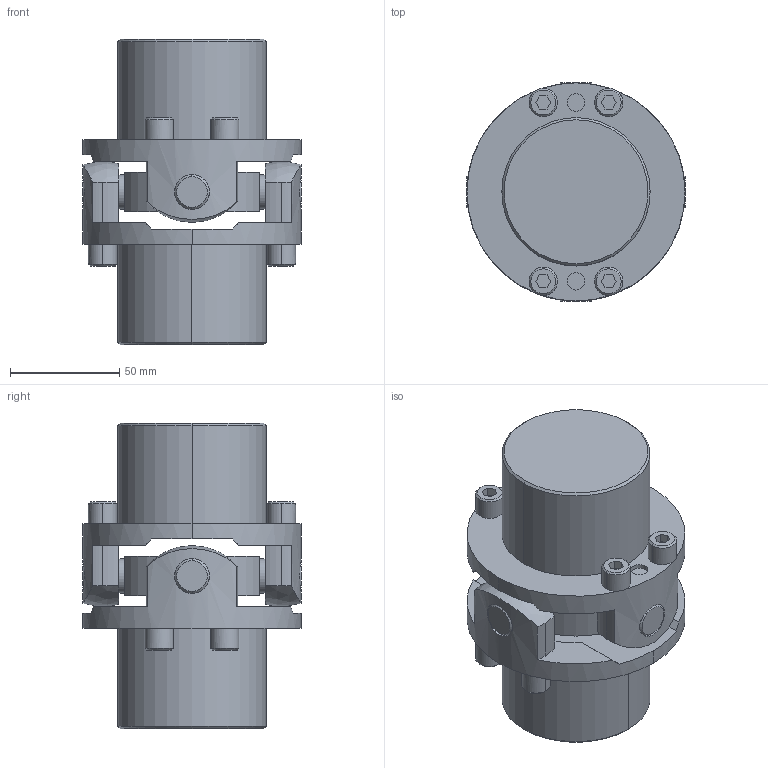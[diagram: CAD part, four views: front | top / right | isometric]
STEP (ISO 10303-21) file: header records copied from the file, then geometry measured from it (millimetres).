
FILE_DESCRIPTION((''),'2;1');
FILE_NAME('UCR-100.stp','2013-05-13T09:59:52',(''),(''),'AutoCAD STEP 2000i','AutoCAD 2000i',', , ');
FILE_SCHEMA(('CONFIG_CONTROL_DESIGN'));
Length unit declared in the file: millimetre
Products named in the file (7): UCR-100; 忣兜1; UCR-10002; UCNF-10002; UCN100-B020-1; UCN100-B020; UCN100-SEN
Assembly tree (6 placements, depth 2):
  UCR-100
    忣兜1
    UCR-10002
    UCNF-10002
    UCN100-B020-1
    UCN100-B020
    UCN100-SEN
Bounding box: 100 x 100 x 140 mm (x, y, z)
Volume: 569263.5 mm3; surface area: 80881.4 mm2
Topology: 1 solids, 1 shells, 218 faces, 553 edges, 366 vertices
Faces by surface type: plane 112, cylinder 74, cone 28, sphere 4
Entity records: 7178 total; most frequent: CARTESIAN_POINT 1533, DIRECTION 1239, ORIENTED_EDGE 1092, EDGE_CURVE 546, AXIS2_PLACEMENT_3D 473, VERTEX_POINT 352, VECTOR 293, LINE 293
